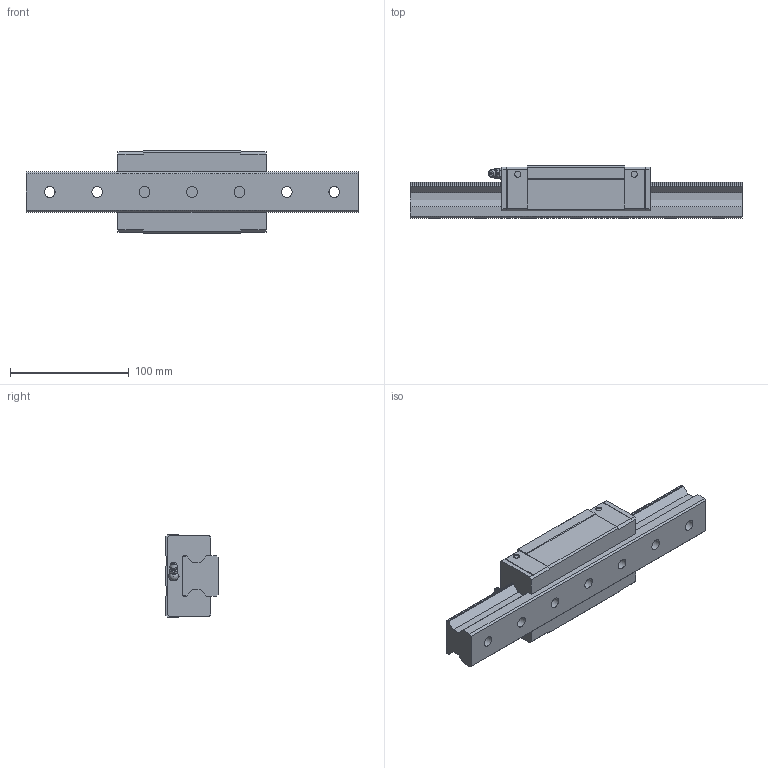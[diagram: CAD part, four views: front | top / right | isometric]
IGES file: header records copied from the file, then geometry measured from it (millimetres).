
Start section: Data from Parasolid IGES Translator 26.0.171, Copyright(c) 2006 Siemens PLM Software. All Rights Reserved.
Global section: file name: SRN35R1SS-280L_G20_0_B-M6F_77-5_0_0_0_1.igs; native system: By Siemens PLM Incorporated; preprocessor: XPlus GENERIC/IGES 26.0.171; author: Noname; organization: Noname; date: 20240523.105629; units: millimetre
Bounding box: 280 x 44 x 70 mm (x, y, z)
Surface area: 85431.5 mm2 (no closed solid volume)
Topology: 0 solids, 0 shells, 190 faces, 972 edges, 890 vertices
Faces by surface type: extrusion 125, revolution 65
